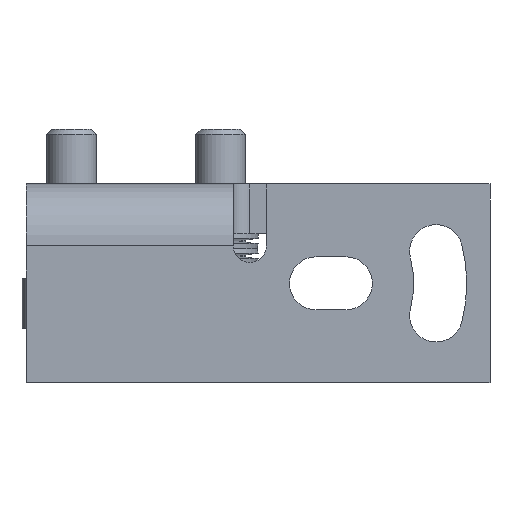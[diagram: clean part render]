
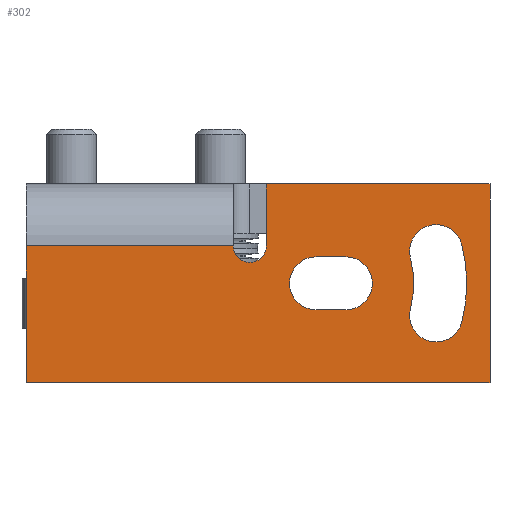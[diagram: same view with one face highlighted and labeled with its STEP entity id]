
A CAD part, front view. The second image highlights one B-rep face of the part: STEP entity #302.
In plain terms, the highlighted planar face has unit normal (0, -1, 0).
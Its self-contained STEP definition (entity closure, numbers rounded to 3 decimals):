
#302 = ADVANCED_FACE( '', ( #471, #472, #473 ), #474, .F. );
#471 = FACE_BOUND( '', #845, .T. );
#472 = FACE_OUTER_BOUND( '', #846, .T. );
#473 = FACE_BOUND( '', #847, .T. );
#474 = PLANE( '', #848 );
#845 = EDGE_LOOP( '', ( #1350, #1351, #1352, #1353 ) );
#846 = EDGE_LOOP( '', ( #1354, #1355, #1356, #1357, #1358, #1359, #1360 ) );
#847 = EDGE_LOOP( '', ( #1361, #1362, #1363, #1364 ) );
#848 = AXIS2_PLACEMENT_3D( '', #1365, #1366, #1367 );
#1350 = ORIENTED_EDGE( '', *, *, #2101, .T. );
#1351 = ORIENTED_EDGE( '', *, *, #2107, .T. );
#1352 = ORIENTED_EDGE( '', *, *, #2110, .T. );
#1353 = ORIENTED_EDGE( '', *, *, #2119, .T. );
#1354 = ORIENTED_EDGE( '', *, *, #2084, .F. );
#1355 = ORIENTED_EDGE( '', *, *, #2105, .F. );
#1356 = ORIENTED_EDGE( '', *, *, #2098, .F. );
#1357 = ORIENTED_EDGE( '', *, *, #2095, .F. );
#1358 = ORIENTED_EDGE( '', *, *, #2088, .T. );
#1359 = ORIENTED_EDGE( '', *, *, #2077, .T. );
#1360 = ORIENTED_EDGE( '', *, *, #2120, .F. );
#1361 = ORIENTED_EDGE( '', *, *, #2080, .T. );
#1362 = ORIENTED_EDGE( '', *, *, #2115, .T. );
#1363 = ORIENTED_EDGE( '', *, *, #2091, .T. );
#1364 = ORIENTED_EDGE( '', *, *, #2113, .F. );
#1365 = CARTESIAN_POINT( '', ( 6.25, -15.5, -0.737 ) );
#1366 = DIRECTION( '', ( 0., 1., 0. ) );
#1367 = DIRECTION( '', ( 0., 0., 1. ) );
#2077 = EDGE_CURVE( '', #2321, #2336, #2338, .T. );
#2080 = EDGE_CURVE( '', #2342, #2343, #2344, .T. );
#2084 = EDGE_CURVE( '', #2350, #2351, #2352, .T. );
#2088 = EDGE_CURVE( '', #2358, #2321, #2359, .T. );
#2091 = EDGE_CURVE( '', #2363, #2364, #2365, .T. );
#2095 = EDGE_CURVE( '', #2358, #2371, #2372, .T. );
#2098 = EDGE_CURVE( '', #2371, #2376, #2377, .T. );
#2101 = EDGE_CURVE( '', #2381, #2382, #2383, .T. );
#2105 = EDGE_CURVE( '', #2376, #2350, #2389, .T. );
#2107 = EDGE_CURVE( '', #2382, #2391, #2392, .T. );
#2110 = EDGE_CURVE( '', #2391, #2396, #2397, .T. );
#2113 = EDGE_CURVE( '', #2342, #2364, #2401, .T. );
#2115 = EDGE_CURVE( '', #2343, #2363, #2403, .T. );
#2119 = EDGE_CURVE( '', #2396, #2381, #2407, .T. );
#2120 = EDGE_CURVE( '', #2351, #2336, #2408, .T. );
#2321 = VERTEX_POINT( '', #2760 );
#2336 = VERTEX_POINT( '', #2779 );
#2338 = LINE( '', #2781, #2782 );
#2342 = VERTEX_POINT( '', #2787 );
#2343 = VERTEX_POINT( '', #2788 );
#2344 = CIRCLE( '', #2789, 1.6 );
#2350 = VERTEX_POINT( '', #2797 );
#2351 = VERTEX_POINT( '', #2798 );
#2352 = LINE( '', #2799, #2800 );
#2358 = VERTEX_POINT( '', #2809 );
#2359 = CIRCLE( '', #2810, 1. );
#2363 = VERTEX_POINT( '', #2815 );
#2364 = VERTEX_POINT( '', #2816 );
#2365 = CIRCLE( '', #2817, 1.6 );
#2371 = VERTEX_POINT( '', #2825 );
#2372 = LINE( '', #2826, #2827 );
#2376 = VERTEX_POINT( '', #2833 );
#2377 = LINE( '', #2834, #2835 );
#2381 = VERTEX_POINT( '', #2841 );
#2382 = VERTEX_POINT( '', #2842 );
#2383 = LINE( '', #2843, #2844 );
#2389 = LINE( '', #2853, #2854 );
#2391 = VERTEX_POINT( '', #2857 );
#2392 = CIRCLE( '', #2858, 1.6 );
#2396 = VERTEX_POINT( '', #2863 );
#2397 = LINE( '', #2864, #2865 );
#2401 = CIRCLE( '', #2871, 5.9 );
#2403 = CIRCLE( '', #2873, 9.1 );
#2407 = CIRCLE( '', #2878, 1.6 );
#2408 = LINE( '', #2879, #2880 );
#2760 = CARTESIAN_POINT( '', ( 5.25, -15.5, -0.737 ) );
#2779 = CARTESIAN_POINT( '', ( -7.25, -15.5, -0.737 ) );
#2781 = CARTESIAN_POINT( '', ( 5.25, -15.5, -0.737 ) );
#2782 = VECTOR( '', #3306, 1000. );
#2787 = CARTESIAN_POINT( '', ( 15.949, -15.5, -1.473 ) );
#2788 = CARTESIAN_POINT( '', ( 19.037, -15.5, -0.632 ) );
#2789 = AXIS2_PLACEMENT_3D( '', #3311, #3312, #3313 );
#2797 = CARTESIAN_POINT( '', ( 20.75, -15.5, -9. ) );
#2798 = CARTESIAN_POINT( '', ( -7.25, -15.5, -9. ) );
#2799 = CARTESIAN_POINT( '', ( 20.75, -15.5, -9. ) );
#2800 = VECTOR( '', #3319, 1000. );
#2809 = CARTESIAN_POINT( '', ( 7.25, -15.5, -0.737 ) );
#2810 = AXIS2_PLACEMENT_3D( '', #3323, #3324, #3325 );
#2815 = CARTESIAN_POINT( '', ( 19.037, -15.5, -5.368 ) );
#2816 = CARTESIAN_POINT( '', ( 15.949, -15.5, -4.527 ) );
#2817 = AXIS2_PLACEMENT_3D( '', #3330, #3331, #3332 );
#2825 = CARTESIAN_POINT( '', ( 7.25, -15.5, 3. ) );
#2826 = CARTESIAN_POINT( '', ( 7.25, -15.5, -0.737 ) );
#2827 = VECTOR( '', #3338, 1000. );
#2833 = CARTESIAN_POINT( '', ( 20.75, -15.5, 3. ) );
#2834 = CARTESIAN_POINT( '', ( 7.25, -15.5, 3. ) );
#2835 = VECTOR( '', #3341, 1000. );
#2841 = CARTESIAN_POINT( '', ( 12.05, -15.5, -4.6 ) );
#2842 = CARTESIAN_POINT( '', ( 10.25, -15.5, -4.6 ) );
#2843 = CARTESIAN_POINT( '', ( 12.05, -15.5, -4.6 ) );
#2844 = VECTOR( '', #3344, 1000. );
#2853 = CARTESIAN_POINT( '', ( 20.75, -15.5, 3. ) );
#2854 = VECTOR( '', #3348, 1000. );
#2857 = CARTESIAN_POINT( '', ( 10.25, -15.5, -1.4 ) );
#2858 = AXIS2_PLACEMENT_3D( '', #3350, #3351, #3352 );
#2863 = CARTESIAN_POINT( '', ( 12.05, -15.5, -1.4 ) );
#2864 = CARTESIAN_POINT( '', ( 10.25, -15.5, -1.4 ) );
#2865 = VECTOR( '', #3357, 1000. );
#2871 = AXIS2_PLACEMENT_3D( '', #3360, #3361, #3362 );
#2873 = AXIS2_PLACEMENT_3D( '', #3366, #3367, #3368 );
#2878 = AXIS2_PLACEMENT_3D( '', #3376, #3377, #3378 );
#2879 = CARTESIAN_POINT( '', ( -7.25, -15.5, -9. ) );
#2880 = VECTOR( '', #3379, 1000. );
#3306 = DIRECTION( '', ( -1., 0., 0. ) );
#3311 = CARTESIAN_POINT( '', ( 17.494, -15.5, -1.059 ) );
#3312 = DIRECTION( '', ( 0., 1., 0. ) );
#3313 = DIRECTION( '', ( 1., 0., 0. ) );
#3319 = DIRECTION( '', ( -1., 0., 0. ) );
#3323 = CARTESIAN_POINT( '', ( 6.25, -15.5, -0.737 ) );
#3324 = DIRECTION( '', ( 0., 1., 0. ) );
#3325 = DIRECTION( '', ( 1., 0., 0. ) );
#3330 = CARTESIAN_POINT( '', ( 17.494, -15.5, -4.941 ) );
#3331 = DIRECTION( '', ( 0., 1., 0. ) );
#3332 = DIRECTION( '', ( 1., 0., 0. ) );
#3338 = DIRECTION( '', ( 0., 0., 1. ) );
#3341 = DIRECTION( '', ( 1., 0., 0. ) );
#3344 = DIRECTION( '', ( -1., 0., 0. ) );
#3348 = DIRECTION( '', ( 0., 0., -1. ) );
#3350 = CARTESIAN_POINT( '', ( 10.25, -15.5, -3. ) );
#3351 = DIRECTION( '', ( 0., 1., 0. ) );
#3352 = DIRECTION( '', ( 1., 0., 0. ) );
#3357 = DIRECTION( '', ( 1., 0., 0. ) );
#3360 = CARTESIAN_POINT( '', ( 10.25, -15.5, -3. ) );
#3361 = DIRECTION( '', ( 0., 1., 0. ) );
#3362 = DIRECTION( '', ( 1., 0., 0. ) );
#3366 = CARTESIAN_POINT( '', ( 10.25, -15.5, -3. ) );
#3367 = DIRECTION( '', ( 0., 1., 0. ) );
#3368 = DIRECTION( '', ( 1., 0., 0. ) );
#3376 = CARTESIAN_POINT( '', ( 12.05, -15.5, -3. ) );
#3377 = DIRECTION( '', ( 0., 1., 0. ) );
#3378 = DIRECTION( '', ( 1., 0., 0. ) );
#3379 = DIRECTION( '', ( 0., 0., 1. ) );
